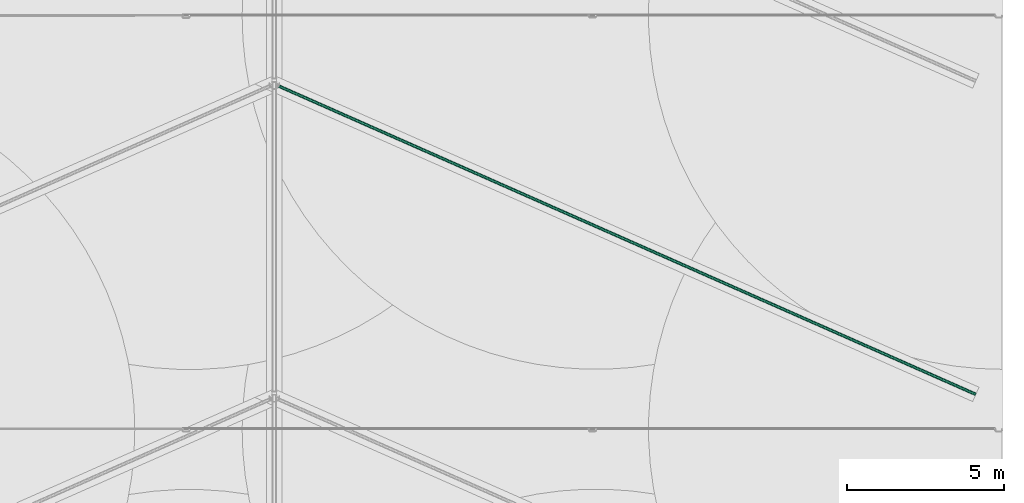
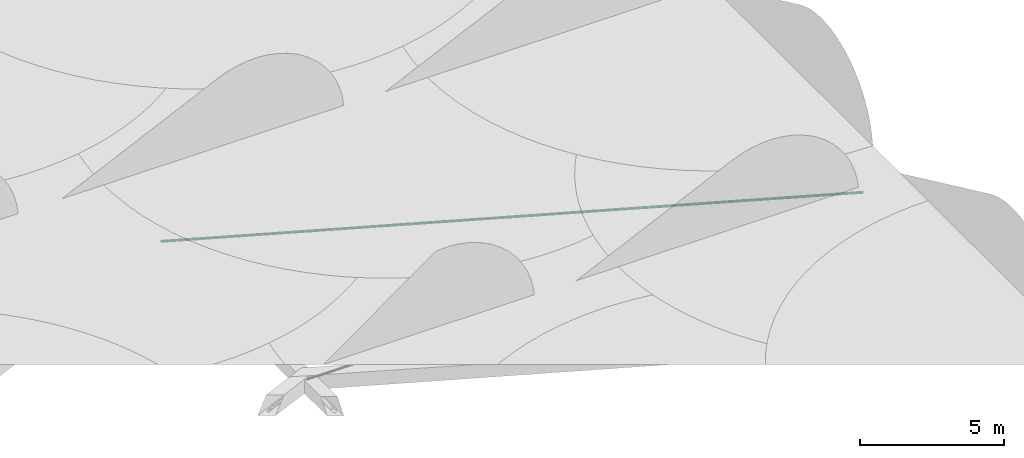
# One storey, part 42 of 166: 1 flow segment.
"""IFC2X3 building model written with IfcOpenShell, lengths in metres."""

from ifc_helpers import new_model, entity, si_unit, converted_unit, direction, frame, frame_2d, origin, place, context, subcontext, project, spatial, circle, extrude, type_object, element, save


model = new_model("IFC2X3")

# Units and contexts
model_context = context("Model", 3, precision=1e-05, world=origin(), true_north=direction((6.123233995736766e-17, 1.0)))
body_context = subcontext(model_context, "Body", "Model", "MODEL_VIEW")
ifc_project = project(units=[si_unit("LENGTHUNIT", "METRE"), converted_unit("PLANEANGLEUNIT", "DEGREE", entity("IfcPlaneAngleMeasure", 0.017453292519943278), si_unit("PLANEANGLEUNIT", "RADIAN"), dimensions=[0, 0, 0, 0, 0, 0, 0]), si_unit("AREAUNIT", "SQUARE_METRE")], contexts=[model_context])

# Site, building, storey
site_placement = place(None, origin())
site = spatial("IfcSite", under=ifc_project, at=site_placement, Name="Default", CompositionType="ELEMENT")
building_placement = place(site_placement, origin())
building = spatial("IfcBuilding", under=site, at=building_placement, Name="CASA DE ACOLHIDA PARA IDOSOS", CompositionType="ELEMENT")
storey_placement = place(building_placement, frame((0.0, 0.0, -1.7499999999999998)))
storey = spatial("IfcBuildingStorey", under=building, at=storey_placement, Name="IMPLANTAÇÃO DRENAGEM", CompositionType="ELEMENT", Elevation=-1.7499999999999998)

# Flow segment
pipe_segment_type = type_object("IfcPipeSegmentType", Name="Tipos de tubos:PLUV_Tubo PEAD Corrugado", PredefinedType="NOTDEFINED")
flow_segment_placement = place(storey_placement, origin())
element("IfcFlowSegment", 1, at=flow_segment_placement, inside=storey, type_object=pipe_segment_type, Name="Tipos de tubos:PLUV_Tubo PEAD Corrugado", ObjectType="Tipos de tubos:PLUV_Tubo PEAD Corrugado", context=body_context, shape_type="SweptSolid", body=[
    extrude(circle(Radius=0.05, at=frame_2d((-3.5042028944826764e-15, -7.922169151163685e-17), x_axis=(1.0, 0.0))), frame((45.355557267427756, 23.953057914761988, -0.9500099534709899), z_axis=(-0.9144899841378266, 0.4044849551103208, -0.009999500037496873), x_axis=(0.4045051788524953, 0.914535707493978, 0.0)), (0.0, 0.0, 1.0), 24.48022857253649),
])

save(model, "model.ifc")
